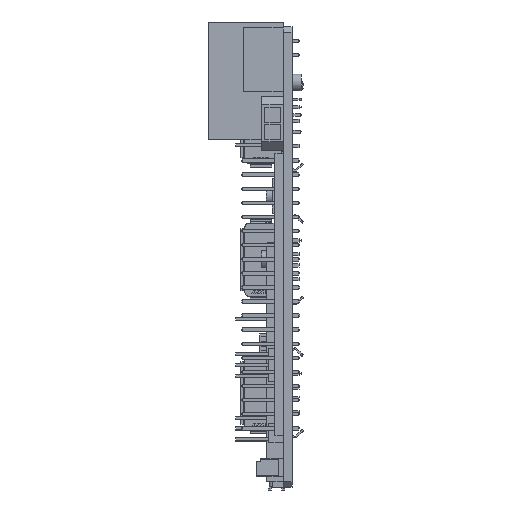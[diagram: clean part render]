
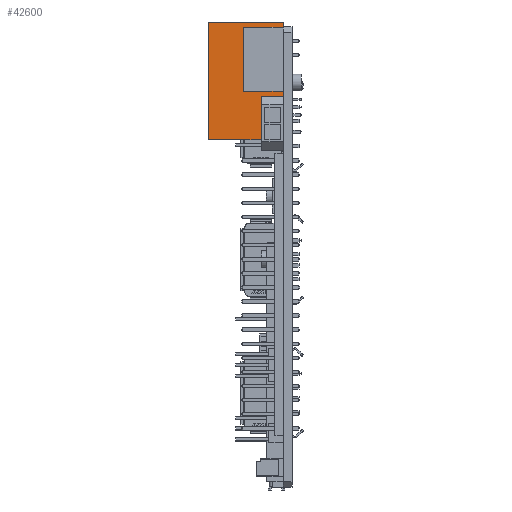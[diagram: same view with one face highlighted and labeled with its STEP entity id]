
A CAD part, left-side view. The second image highlights one B-rep face of the part: STEP entity #42600.
In plain terms, the highlighted planar face has unit normal (-1, 0, 0).
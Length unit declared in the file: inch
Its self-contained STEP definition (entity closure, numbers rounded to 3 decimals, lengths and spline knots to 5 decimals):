
#3476 = LINE ( 'NONE', #12781, #51150 ) ;
#9899 = VERTEX_POINT ( 'NONE', #35485 ) ;
#10410 = EDGE_CURVE ( 'NONE', #13415, #17530, #23200, .T. ) ;
#11063 = CARTESIAN_POINT ( 'NONE',  ( -0.31496, -0.26476, -0.83071 ) ) ;
#11332 = DIRECTION ( 'NONE',  ( -1., 0., 0. ) ) ;
#12781 = CARTESIAN_POINT ( 'NONE',  ( -0.31496, 0.26476, -0.83071 ) ) ;
#13415 = VERTEX_POINT ( 'NONE', #33644 ) ;
#14859 = PLANE ( 'NONE',  #50367 ) ;
#15537 = CARTESIAN_POINT ( 'NONE',  ( -0.31496, -0.26476, 0. ) ) ;
#17530 = VERTEX_POINT ( 'NONE', #27070 ) ;
#18207 = CARTESIAN_POINT ( 'NONE',  ( -0.31496, 0.26476, -0.83071 ) ) ;
#19603 = CARTESIAN_POINT ( 'NONE',  ( -0.31496, -0.26476, -0.83071 ) ) ;
#19916 = EDGE_LOOP ( 'NONE', ( #31356, #54921, #41615, #35810 ) ) ;
#21243 = DIRECTION ( 'NONE',  ( 0., 0., 1. ) ) ;
#23200 = LINE ( 'NONE', #48533, #49056 ) ;
#24812 = EDGE_CURVE ( 'NONE', #9899, #17530, #47553, .T. ) ;
#26465 = VECTOR ( 'NONE', #37347, 39.37008 ) ;
#27070 = CARTESIAN_POINT ( 'NONE',  ( -0.31496, -0.26476, 0. ) ) ;
#28936 = DIRECTION ( 'NONE',  ( 0., -1., 0. ) ) ;
#29067 = VERTEX_POINT ( 'NONE', #18207 ) ;
#31192 = VECTOR ( 'NONE', #28936, 39.37008 ) ;
#31356 = ORIENTED_EDGE ( 'NONE', *, *, #24812, .F. ) ;
#33644 = CARTESIAN_POINT ( 'NONE',  ( -0.31496, -0.26476, -0.83071 ) ) ;
#35485 = CARTESIAN_POINT ( 'NONE',  ( -0.31496, 0.26476, 0. ) ) ;
#35675 = EDGE_CURVE ( 'NONE', #29067, #9899, #3476, .T. ) ;
#35810 = ORIENTED_EDGE ( 'NONE', *, *, #10410, .T. ) ;
#36009 = DIRECTION ( 'NONE',  ( 0., 0., 1. ) ) ;
#37347 = DIRECTION ( 'NONE',  ( 0., -1., 0. ) ) ;
#37851 = DIRECTION ( 'NONE',  ( 0., 0., 1. ) ) ;
#39136 = EDGE_CURVE ( 'NONE', #29067, #13415, #41740, .T. ) ;
#41615 = ORIENTED_EDGE ( 'NONE', *, *, #39136, .T. ) ;
#41740 = LINE ( 'NONE', #19603, #26465 ) ;
#42600 = ADVANCED_FACE ( 'NONE', ( #55322 ), #14859, .T. ) ;
#47553 = LINE ( 'NONE', #15537, #31192 ) ;
#48533 = CARTESIAN_POINT ( 'NONE',  ( -0.31496, -0.26476, -0.83071 ) ) ;
#49056 = VECTOR ( 'NONE', #36009, 39.37008 ) ;
#50367 = AXIS2_PLACEMENT_3D ( 'NONE', #11063, #11332, #37851 ) ;
#51150 = VECTOR ( 'NONE', #21243, 39.37008 ) ;
#54921 = ORIENTED_EDGE ( 'NONE', *, *, #35675, .F. ) ;
#55322 = FACE_OUTER_BOUND ( 'NONE', #19916, .T. ) ;
